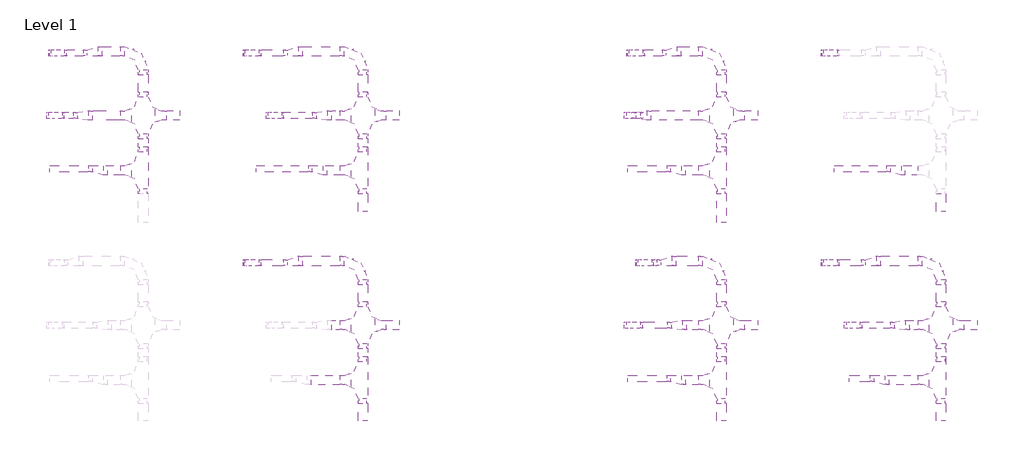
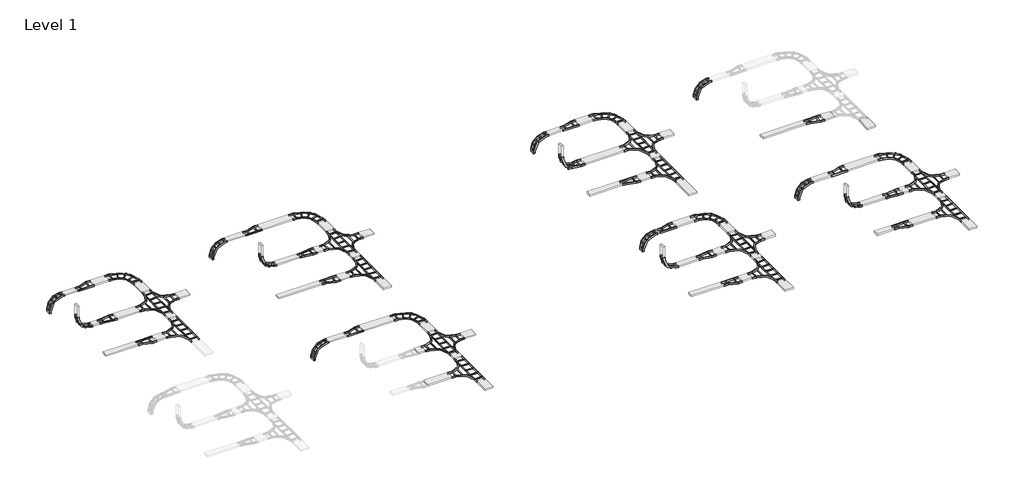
# One storey, part 5 of 9: 71 cable carrier segments, 47 cable carrier fittings.
"""IFC4 building model written with IfcOpenShell, lengths in millimetres."""

from ifc_helpers import new_model, si_unit, frame, origin, place, context, project, spatial, polyline, outline, extrude, transform, mapped, element, save
from components import cable_carrier_fitting_1_5_mm_3523910d, cable_carrier_fitting_1_5_mm_19f47176, cable_carrier_fitting_1_5_mm_3fb46f2a, cable_carrier_fitting_1_5_mm_6c32c4d6, cable_carrier_fitting_1_5_mm_98a35593, cable_carrier_fitting_1_5_mm_dfeaff0d, cable_carrier_fitting_1_5_mm_72e9b842, cable_carrier_fitting_1_5_mm_6b6fba04, cable_carrier_fitting_1_5_mm_c50eb6b4, cable_carrier_fitting_1_5_mm_1f838bc7, cable_carrier_fitting_1_5_mm_861352f9, cable_carrier_fitting_1_5_mm_f55de235, cable_carrier_fitting_1_5_mm_ccf48cd3, cable_carrier_fitting_1_5_mm_2af02ecb, cable_carrier_fitting_1_5_mm_74426db5, cable_carrier_fitting_1_5_mm_0168b917, cable_carrier_fitting_1_5_mm_cc8ef015, cable_carrier_fitting_1_5_mm_7721eeaa, cable_carrier_fitting_1_5_mm_8b0a73e9, cable_carrier_fitting_1_5_mm_c053843e

model = new_model("IFC4")

# Units and contexts
model_context = context("Model", 3, world=origin())
ifc_project = project(units=[si_unit("LENGTHUNIT", "METRE", prefix="MILLI")], contexts=[model_context])

# Site, building, storey
site = spatial("IfcSite", under=ifc_project)
building = spatial("IfcBuilding", under=site)
storey = spatial("IfcBuildingStorey", under=building, Name="Level 1", Elevation=0.0)

# Cable carrier fittings
placement = place(None, origin())
cable_carrier_fitting_1_5_mm_shape = cable_carrier_fitting_1_5_mm_3523910d(model_context)
element("IfcCableCarrierFitting", 1, ObjectType="BAKS_Łuk_drabiny : 1.5 mm", at=placement, inside=storey, context=model_context, shape_type="MappedRepresentation", body=[
    mapped(cable_carrier_fitting_1_5_mm_shape, transform((36575.8987392, 20568.4533524, 2750.0), x_axis=(0.0, 1.0, 0.0), y_axis=(-1.0, 0.0, 0.0), z_axis=(0.0, 0.0, 1.0))),
])
element("IfcCableCarrierFitting", 2, ObjectType="BAKS_Łuk_drabiny : 1.5 mm", at=placement, inside=storey, context=model_context, shape_type="MappedRepresentation", body=[
    mapped(cable_carrier_fitting_1_5_mm_shape, transform((36575.8987392, 14068.4533524, 2750.0), x_axis=(0.0, 1.0, 0.0), y_axis=(-1.0, 0.0, 0.0), z_axis=(0.0, 0.0, 1.0))),
])
element("IfcCableCarrierFitting", 3, ObjectType="BAKS_Łuk_drabiny : 1.5 mm", at=placement, inside=storey, context=model_context, shape_type="MappedRepresentation", body=[
    mapped(cable_carrier_fitting_1_5_mm_shape, transform((43375.8987392, 14068.4533524, 2750.0), x_axis=(0.0, 1.0, 0.0), y_axis=(-1.0, 0.0, 0.0), z_axis=(0.0, 0.0, 1.0))),
])
cable_carrier_fitting_1_5_mm_2_shape = cable_carrier_fitting_1_5_mm_19f47176(model_context)
element("IfcCableCarrierFitting", 4, ObjectType="BAKS_Czwórnik_drabiny : 1.5 mm", at=placement, inside=storey, context=model_context, shape_type="MappedRepresentation", body=[
    mapped(cable_carrier_fitting_1_5_mm_2_shape, transform((36575.8987392, 18581.6749022, 2750.0), x_axis=(0.0, 1.0, 0.0), y_axis=(-1.0, 0.0, 0.0), z_axis=(0.0, 0.0, 1.0))),
])
element("IfcCableCarrierFitting", 5, ObjectType="BAKS_Czwórnik_drabiny : 1.5 mm", at=placement, inside=storey, context=model_context, shape_type="MappedRepresentation", body=[
    mapped(cable_carrier_fitting_1_5_mm_2_shape, transform((36575.8987392, 12081.6749022, 2750.0), x_axis=(0.0, 1.0, 0.0), y_axis=(-1.0, 0.0, 0.0), z_axis=(0.0, 0.0, 1.0))),
])
element("IfcCableCarrierFitting", 6, ObjectType="BAKS_Czwórnik_drabiny : 1.5 mm", at=placement, inside=storey, context=model_context, shape_type="MappedRepresentation", body=[
    mapped(cable_carrier_fitting_1_5_mm_2_shape, transform((43375.8987392, 12081.6749022, 2750.0), x_axis=(0.0, 1.0, 0.0), y_axis=(-1.0, 0.0, 0.0), z_axis=(0.0, 0.0, 1.0))),
])
cable_carrier_fitting_1_5_mm_3_shape = cable_carrier_fitting_1_5_mm_3fb46f2a(model_context)
element("IfcCableCarrierFitting", 7, ObjectType="BAKS_Łuk_drabiny : 1.5 mm", at=placement, inside=storey, context=model_context, shape_type="MappedRepresentation", body=[
    mapped(cable_carrier_fitting_1_5_mm_3_shape, transform((18675.8987392, 20568.4533524, 2750.0), x_axis=(0.0, 1.0, 0.0), y_axis=(-1.0, 0.0, 0.0), z_axis=(0.0, 0.0, 1.0))),
])
element("IfcCableCarrierFitting", 8, ObjectType="BAKS_Łuk_drabiny : 1.5 mm", at=placement, inside=storey, context=model_context, shape_type="MappedRepresentation", body=[
    mapped(cable_carrier_fitting_1_5_mm_3_shape, transform((25475.8987392, 20568.4533524, 2750.0), x_axis=(0.0, 1.0, 0.0), y_axis=(-1.0, 0.0, 0.0), z_axis=(0.0, 0.0, 1.0))),
])
element("IfcCableCarrierFitting", 9, ObjectType="BAKS_Łuk_drabiny : 1.5 mm", at=placement, inside=storey, context=model_context, shape_type="MappedRepresentation", body=[
    mapped(cable_carrier_fitting_1_5_mm_3_shape, transform((25475.8987392, 14068.4533524, 2750.0), x_axis=(0.0, 1.0, 0.0), y_axis=(-1.0, 0.0, 0.0), z_axis=(0.0, 0.0, 1.0))),
])
cable_carrier_fitting_1_5_mm_4_shape = cable_carrier_fitting_1_5_mm_6c32c4d6(model_context)
element("IfcCableCarrierFitting", 10, ObjectType="BAKS_Trójnik_drabiny : 1.5 mm", at=placement, inside=storey, context=model_context, shape_type="MappedRepresentation", body=[
    mapped(cable_carrier_fitting_1_5_mm_4_shape, transform((18675.8987392, 16879.8296821, 2750.0), x_axis=(0.0, -1.0, 0.0), y_axis=(1.0, 0.0, 0.0), z_axis=(0.0, 0.0, 1.0))),
])
element("IfcCableCarrierFitting", 11, ObjectType="BAKS_Trójnik_drabiny : 1.5 mm", at=placement, inside=storey, context=model_context, shape_type="MappedRepresentation", body=[
    mapped(cable_carrier_fitting_1_5_mm_4_shape, transform((25475.8987392, 16879.8296821, 2750.0), x_axis=(0.0, -1.0, 0.0), y_axis=(1.0, 0.0, 0.0), z_axis=(0.0, 0.0, 1.0))),
])
element("IfcCableCarrierFitting", 12, ObjectType="BAKS_Trójnik_drabiny : 1.5 mm", at=placement, inside=storey, context=model_context, shape_type="MappedRepresentation", body=[
    mapped(cable_carrier_fitting_1_5_mm_4_shape, transform((25475.8987392, 10379.8296821, 2750.0), x_axis=(0.0, -1.0, 0.0), y_axis=(1.0, 0.0, 0.0), z_axis=(0.0, 0.0, 1.0))),
])
cable_carrier_fitting_1_5_mm_5_shape = cable_carrier_fitting_1_5_mm_98a35593(model_context)
element("IfcCableCarrierFitting", 13, ObjectType="BAKS_Czwórnik_drabiny : 1.5 mm", at=placement, inside=storey, context=model_context, shape_type="MappedRepresentation", body=[
    mapped(cable_carrier_fitting_1_5_mm_5_shape, transform((18675.8987392, 18581.6749022, 2750.0), x_axis=(0.0, 1.0, 0.0), y_axis=(-1.0, 0.0, 0.0), z_axis=(0.0, 0.0, 1.0))),
])
element("IfcCableCarrierFitting", 14, ObjectType="BAKS_Czwórnik_drabiny : 1.5 mm", at=placement, inside=storey, context=model_context, shape_type="MappedRepresentation", body=[
    mapped(cable_carrier_fitting_1_5_mm_5_shape, transform((25475.8987392, 18581.6749022, 2750.0), x_axis=(0.0, 1.0, 0.0), y_axis=(-1.0, 0.0, 0.0), z_axis=(0.0, 0.0, 1.0))),
])
element("IfcCableCarrierFitting", 15, ObjectType="BAKS_Czwórnik_drabiny : 1.5 mm", at=placement, inside=storey, context=model_context, shape_type="MappedRepresentation", body=[
    mapped(cable_carrier_fitting_1_5_mm_5_shape, transform((25475.8987392, 12081.6749022, 2750.0), x_axis=(0.0, 1.0, 0.0), y_axis=(-1.0, 0.0, 0.0), z_axis=(0.0, 0.0, 1.0))),
])
cable_carrier_fitting_1_5_mm_6_shape = cable_carrier_fitting_1_5_mm_dfeaff0d(model_context)
element("IfcCableCarrierFitting", 16, ObjectType="BAKS_Redukcja_drabiny : 1.5 mm", at=placement, inside=storey, context=model_context, shape_type="MappedRepresentation", body=[
    mapped(cable_carrier_fitting_1_5_mm_6_shape, transform((17104.2228336, 18581.6749022, 2750.0), x_axis=(-1.0, 0.0, 0.0), y_axis=(0.0, -1.0, 0.0), z_axis=(0.0, 0.0, 1.0))),
])
cable_carrier_fitting_1_5_mm_7_shape = cable_carrier_fitting_1_5_mm_72e9b842(model_context)
element("IfcCableCarrierFitting", 17, ObjectType="BAKS_Redukcja_drabiny : 1.5 mm", at=placement, inside=storey, context=model_context, shape_type="MappedRepresentation", body=[
    mapped(cable_carrier_fitting_1_5_mm_7_shape, transform((16809.31285, 20518.4533524, 2750.0), x_axis=(1.0, 0.0, 0.0), y_axis=(0.0, 1.0, 0.0), z_axis=(0.0, 0.0, 1.0))),
])
cable_carrier_fitting_1_5_mm_8_shape = cable_carrier_fitting_1_5_mm_6b6fba04(model_context)
element("IfcCableCarrierFitting", 18, ObjectType="BAKS_Redukcja_drabiny : 1.5 mm", at=placement, inside=storey, context=model_context, shape_type="MappedRepresentation", body=[
    mapped(cable_carrier_fitting_1_5_mm_8_shape, transform((23904.2228336, 18581.6749022, 2750.0), x_axis=(1.0, 0.0, 0.0), y_axis=(0.0, 1.0, 0.0), z_axis=(0.0, 0.0, 1.0))),
])
cable_carrier_fitting_1_5_mm_9_shape = cable_carrier_fitting_1_5_mm_c50eb6b4(model_context)
element("IfcCableCarrierFitting", 19, ObjectType="BAKS_Redukcja_drabiny : 1.5 mm", at=placement, inside=storey, context=model_context, shape_type="MappedRepresentation", body=[
    mapped(cable_carrier_fitting_1_5_mm_9_shape, transform((23609.31285, 20568.4533524, 2750.0), x_axis=(-1.0, 0.0, 0.0), y_axis=(0.0, -1.0, 0.0), z_axis=(0.0, 0.0, 1.0))),
])
element("IfcCableCarrierFitting", 20, ObjectType="BAKS_Redukcja_drabiny : 1.5 mm", at=placement, inside=storey, context=model_context, shape_type="MappedRepresentation", body=[
    mapped(cable_carrier_fitting_1_5_mm_9_shape, transform((23609.31285, 14068.4533524, 2750.0), x_axis=(-1.0, 0.0, 0.0), y_axis=(0.0, -1.0, 0.0), z_axis=(0.0, 0.0, 1.0))),
])
cable_carrier_fitting_1_5_mm_10_shape = cable_carrier_fitting_1_5_mm_1f838bc7(model_context)
element("IfcCableCarrierFitting", 21, ObjectType="BAKS_Redukcja_drabiny : 1.5 mm", at=placement, inside=storey, context=model_context, shape_type="MappedRepresentation", body=[
    mapped(cable_carrier_fitting_1_5_mm_10_shape, transform((17575.8987392, 16879.8296821, 2750.0), x_axis=(-1.0, 0.0, 0.0), y_axis=(0.0, -1.0, 0.0), z_axis=(0.0, 0.0, 1.0))),
])
element("IfcCableCarrierFitting", 22, ObjectType="BAKS_Redukcja_drabiny : 1.5 mm", at=placement, inside=storey, context=model_context, shape_type="MappedRepresentation", body=[
    mapped(cable_carrier_fitting_1_5_mm_10_shape, transform((24375.8987392, 16879.8296821, 2750.0), x_axis=(-1.0, 0.0, 0.0), y_axis=(0.0, -1.0, 0.0), z_axis=(0.0, 0.0, 1.0))),
])
cable_carrier_fitting_1_5_mm_11_shape = cable_carrier_fitting_1_5_mm_861352f9(model_context)
element("IfcCableCarrierFitting", 23, ObjectType="BAKS_Łuk_pionowy_drabiny_zew : 1.5 mm", at=placement, inside=storey, context=model_context, shape_type="MappedRepresentation", body=[
    mapped(cable_carrier_fitting_1_5_mm_11_shape, transform((15777.0936106, 20518.4533524, 2750.0), x_axis=(0.0, 0.0, 1.0), y_axis=(1.0, 0.0, 0.0), z_axis=(0.0, 1.0, 0.0))),
])
element("IfcCableCarrierFitting", 24, ObjectType="BAKS_Łuk_pionowy_drabiny_zew : 1.5 mm", at=placement, inside=storey, context=model_context, shape_type="MappedRepresentation", body=[
    mapped(cable_carrier_fitting_1_5_mm_11_shape, transform((21799.2228336, 20518.4533524, 2750.0), x_axis=(0.0, 0.0, 1.0), y_axis=(1.0, 0.0, 0.0), z_axis=(0.0, 1.0, 0.0))),
])
element("IfcCableCarrierFitting", 25, ObjectType="BAKS_Łuk_pionowy_drabiny_zew : 1.5 mm", at=placement, inside=storey, context=model_context, shape_type="MappedRepresentation", body=[
    mapped(cable_carrier_fitting_1_5_mm_11_shape, transform((21799.2228336, 14018.4533524, 2750.0), x_axis=(0.0, 0.0, 1.0), y_axis=(1.0, 0.0, 0.0), z_axis=(0.0, 1.0, 0.0))),
])
cable_carrier_fitting_1_5_mm_12_shape = cable_carrier_fitting_1_5_mm_f55de235(model_context)
element("IfcCableCarrierFitting", 26, ObjectType="BAKS_Łuk_pionowy_drabiny_wew : 1.5 mm", at=placement, inside=storey, context=model_context, shape_type="MappedRepresentation", body=[
    mapped(cable_carrier_fitting_1_5_mm_12_shape, transform((15704.2228336, 18581.6749022, 2750.0), x_axis=(-1.0, 0.0, 0.0), y_axis=(0.0, 0.0, 1.0), z_axis=(0.0, 1.0, 0.0))),
])
element("IfcCableCarrierFitting", 27, ObjectType="BAKS_Łuk_pionowy_drabiny_wew : 1.5 mm", at=placement, inside=storey, context=model_context, shape_type="MappedRepresentation", body=[
    mapped(cable_carrier_fitting_1_5_mm_12_shape, transform((22504.2228336, 18581.6749022, 2750.0), x_axis=(0.0, 0.0, -1.0), y_axis=(1.0, 0.0, 0.0), z_axis=(0.0, -1.0, 0.0))),
])
cable_carrier_fitting_1_5_mm_13_shape = cable_carrier_fitting_1_5_mm_ccf48cd3(model_context)
element("IfcCableCarrierFitting", 28, ObjectType="BAKS_Redukcja_drabiny : 1.5 mm", at=placement, inside=storey, context=model_context, shape_type="MappedRepresentation", body=[
    mapped(cable_carrier_fitting_1_5_mm_13_shape, transform((35475.8987392, 16879.8296821, 2750.0), x_axis=(-1.0, 0.0, 0.0), y_axis=(0.0, -1.0, 0.0), z_axis=(0.0, 0.0, 1.0))),
])
element("IfcCableCarrierFitting", 29, ObjectType="BAKS_Redukcja_drabiny : 1.5 mm", at=placement, inside=storey, context=model_context, shape_type="MappedRepresentation", body=[
    mapped(cable_carrier_fitting_1_5_mm_13_shape, transform((35475.8987392, 10379.8296821, 2750.0), x_axis=(-1.0, 0.0, 0.0), y_axis=(0.0, -1.0, 0.0), z_axis=(0.0, 0.0, 1.0))),
])
element("IfcCableCarrierFitting", 30, ObjectType="BAKS_Redukcja_drabiny : 1.5 mm", at=placement, inside=storey, context=model_context, shape_type="MappedRepresentation", body=[
    mapped(cable_carrier_fitting_1_5_mm_13_shape, transform((42275.8987392, 16879.8296821, 2750.0), x_axis=(-1.0, 0.0, 0.0), y_axis=(0.0, -1.0, 0.0), z_axis=(0.0, 0.0, 1.0))),
])
element("IfcCableCarrierFitting", 31, ObjectType="BAKS_Redukcja_drabiny : 1.5 mm", at=placement, inside=storey, context=model_context, shape_type="MappedRepresentation", body=[
    mapped(cable_carrier_fitting_1_5_mm_13_shape, transform((41775.8987392, 10379.8296821, 2750.0), x_axis=(-1.0, 0.0, 0.0), y_axis=(0.0, -1.0, 0.0), z_axis=(0.0, 0.0, 1.0))),
])
cable_carrier_fitting_1_5_mm_14_shape = cable_carrier_fitting_1_5_mm_2af02ecb(model_context)
element("IfcCableCarrierFitting", 32, ObjectType="BAKS_Redukcja_drabiny : 1.5 mm", at=placement, inside=storey, context=model_context, shape_type="MappedRepresentation", body=[
    mapped(cable_carrier_fitting_1_5_mm_14_shape, transform((35337.0936106, 20568.4533524, 2750.0), x_axis=(-1.0, 0.0, 0.0), y_axis=(0.0, -1.0, 0.0), z_axis=(0.0, 0.0, 1.0))),
])
cable_carrier_fitting_1_5_mm_15_shape = cable_carrier_fitting_1_5_mm_74426db5(model_context)
element("IfcCableCarrierFitting", 33, ObjectType="BAKS_Redukcja_drabiny : 1.5 mm", at=placement, inside=storey, context=model_context, shape_type="MappedRepresentation", body=[
    mapped(cable_carrier_fitting_1_5_mm_15_shape, transform((34404.2228336, 18581.6749022, 2750.0), x_axis=(-1.0, 0.0, 0.0), y_axis=(0.0, -1.0, 0.0), z_axis=(0.0, 0.0, 1.0))),
])
element("IfcCableCarrierFitting", 34, ObjectType="BAKS_Redukcja_drabiny : 1.5 mm", at=placement, inside=storey, context=model_context, shape_type="MappedRepresentation", body=[
    mapped(cable_carrier_fitting_1_5_mm_15_shape, transform((42404.2228336, 12081.6749022, 2750.0), x_axis=(-1.0, 0.0, 0.0), y_axis=(0.0, -1.0, 0.0), z_axis=(0.0, 0.0, 1.0))),
])
cable_carrier_fitting_1_5_mm_16_shape = cable_carrier_fitting_1_5_mm_0168b917(model_context)
element("IfcCableCarrierFitting", 35, ObjectType="BAKS_Redukcja_drabiny : 1.5 mm", at=placement, inside=storey, context=model_context, shape_type="MappedRepresentation", body=[
    mapped(cable_carrier_fitting_1_5_mm_16_shape, transform((34575.8987392, 14018.4533524, 2750.0), x_axis=(1.0, 0.0, 0.0), y_axis=(0.0, 1.0, 0.0), z_axis=(0.0, 0.0, 1.0))),
])
element("IfcCableCarrierFitting", 36, ObjectType="BAKS_Redukcja_drabiny : 1.5 mm", at=placement, inside=storey, context=model_context, shape_type="MappedRepresentation", body=[
    mapped(cable_carrier_fitting_1_5_mm_16_shape, transform((40909.31285, 14018.4533524, 2750.0), x_axis=(1.0, 0.0, 0.0), y_axis=(0.0, 1.0, 0.0), z_axis=(0.0, 0.0, 1.0))),
])
cable_carrier_fitting_1_5_mm_17_shape = cable_carrier_fitting_1_5_mm_cc8ef015(model_context)
element("IfcCableCarrierFitting", 37, ObjectType="BAKS_Łuk_pionowy_drabiny_zew : 1.5 mm", at=placement, inside=storey, context=model_context, shape_type="MappedRepresentation", body=[
    mapped(cable_carrier_fitting_1_5_mm_17_shape, transform((33677.0936106, 20518.4533524, 2750.0), x_axis=(0.0, 0.0, 1.0), y_axis=(1.0, 0.0, 0.0), z_axis=(0.0, 1.0, 0.0))),
])
element("IfcCableCarrierFitting", 38, ObjectType="BAKS_Łuk_pionowy_drabiny_zew : 1.5 mm", at=placement, inside=storey, context=model_context, shape_type="MappedRepresentation", body=[
    mapped(cable_carrier_fitting_1_5_mm_17_shape, transform((33954.31285, 14018.4533524, 2750.0), x_axis=(0.0, 0.0, 1.0), y_axis=(1.0, 0.0, 0.0), z_axis=(0.0, 1.0, 0.0))),
])
element("IfcCableCarrierFitting", 39, ObjectType="BAKS_Łuk_pionowy_drabiny_zew : 1.5 mm", at=placement, inside=storey, context=model_context, shape_type="MappedRepresentation", body=[
    mapped(cable_carrier_fitting_1_5_mm_17_shape, transform((39699.2228336, 20518.4533524, 2750.0), x_axis=(0.0, 0.0, 1.0), y_axis=(1.0, 0.0, 0.0), z_axis=(0.0, 1.0, 0.0))),
])
element("IfcCableCarrierFitting", 40, ObjectType="BAKS_Łuk_pionowy_drabiny_zew : 1.5 mm", at=placement, inside=storey, context=model_context, shape_type="MappedRepresentation", body=[
    mapped(cable_carrier_fitting_1_5_mm_17_shape, transform((39699.2228336, 14018.4533524, 2750.0), x_axis=(0.0, 0.0, 1.0), y_axis=(1.0, 0.0, 0.0), z_axis=(0.0, 1.0, 0.0))),
])
cable_carrier_fitting_1_5_mm_18_shape = cable_carrier_fitting_1_5_mm_7721eeaa(model_context)
element("IfcCableCarrierFitting", 41, ObjectType="BAKS_Łuk_pionowy_drabiny_wew : 1.5 mm", at=placement, inside=storey, context=model_context, shape_type="MappedRepresentation", body=[
    mapped(cable_carrier_fitting_1_5_mm_18_shape, transform((33604.2228336, 18581.6749022, 2750.0), x_axis=(0.0, 0.0, -1.0), y_axis=(1.0, 0.0, 0.0), z_axis=(0.0, -1.0, 0.0))),
])
element("IfcCableCarrierFitting", 42, ObjectType="BAKS_Łuk_pionowy_drabiny_wew : 1.5 mm", at=placement, inside=storey, context=model_context, shape_type="MappedRepresentation", body=[
    mapped(cable_carrier_fitting_1_5_mm_18_shape, transform((40404.2228336, 12081.6749022, 2750.0), x_axis=(0.0, 0.0, -1.0), y_axis=(1.0, 0.0, 0.0), z_axis=(0.0, -1.0, 0.0))),
])
element("IfcCableCarrierFitting", 43, ObjectType="BAKS_Łuk_pionowy_drabiny_wew : 1.5 mm", at=placement, inside=storey, context=model_context, shape_type="MappedRepresentation", body=[
    mapped(cable_carrier_fitting_1_5_mm_18_shape, transform((33604.2228336, 12081.6749022, 2750.0), x_axis=(0.0, 0.0, -1.0), y_axis=(1.0, 0.0, 0.0), z_axis=(0.0, -1.0, 0.0))),
])
cable_carrier_fitting_1_5_mm_19_shape = cable_carrier_fitting_1_5_mm_8b0a73e9(model_context)
element("IfcCableCarrierFitting", 44, ObjectType="BAKS_Trójnik_drabiny : 1.5 mm", at=placement, inside=storey, context=model_context, shape_type="MappedRepresentation", body=[
    mapped(cable_carrier_fitting_1_5_mm_19_shape, transform((36575.8987392, 16879.8296821, 2750.0), x_axis=(0.0, -1.0, 0.0), y_axis=(1.0, 0.0, 0.0), z_axis=(0.0, 0.0, 1.0))),
])
element("IfcCableCarrierFitting", 45, ObjectType="BAKS_Trójnik_drabiny : 1.5 mm", at=placement, inside=storey, context=model_context, shape_type="MappedRepresentation", body=[
    mapped(cable_carrier_fitting_1_5_mm_19_shape, transform((36575.8987392, 10379.8296821, 2750.0), x_axis=(0.0, -1.0, 0.0), y_axis=(1.0, 0.0, 0.0), z_axis=(0.0, 0.0, 1.0))),
])
element("IfcCableCarrierFitting", 46, ObjectType="BAKS_Trójnik_drabiny : 1.5 mm", at=placement, inside=storey, context=model_context, shape_type="MappedRepresentation", body=[
    mapped(cable_carrier_fitting_1_5_mm_19_shape, transform((43375.8987392, 10379.8296821, 2750.0), x_axis=(0.0, -1.0, 0.0), y_axis=(1.0, 0.0, 0.0), z_axis=(0.0, 0.0, 1.0))),
])
cable_carrier_fitting_1_5_mm_20_shape = cable_carrier_fitting_1_5_mm_c053843e(model_context)
element("IfcCableCarrierFitting", 47, ObjectType="BAKS_Redukcja_drabiny : 1.5 mm", at=placement, inside=storey, context=model_context, shape_type="MappedRepresentation", body=[
    mapped(cable_carrier_fitting_1_5_mm_20_shape, transform((34904.2228336, 12081.6749022, 2750.0), x_axis=(1.0, 0.0, 0.0), y_axis=(0.0, 1.0, 0.0), z_axis=(0.0, 0.0, 1.0))),
])

# Cable carrier segments
element("IfcCableCarrierSegment", 48, ObjectType="BAKS - drabina kablowa H50 (DKD)", at=placement, inside=storey, context=model_context, shape_type="SweptSolid", body=[
    extrude(outline(polyline([(15802.0936106, 20418.4533524), (15752.0936106, 20418.4533524), (15752.0936106, 20618.4533524), (15802.0936106, 20618.4533524), (15802.0936106, 20418.4533524)])), frame((0.0, 0.0, 2200.0), z_axis=(0.0, 0.0, 1.0), x_axis=(1.0, 0.0, 0.0)), (0.0, 0.0, 1.0), 25.0),
])
element("IfcCableCarrierSegment", 49, ObjectType="BAKS - drabina kablowa H50 (DKD)", at=placement, inside=storey, context=model_context, shape_type="SweptSolid", body=[
    extrude(outline(polyline([(17955.8987392, 17029.8296821), (17955.8987392, 16729.8296821), (17575.8987392, 16729.8296821), (17575.8987392, 17029.8296821), (17955.8987392, 17029.8296821)])), frame((0.0, 0.0, 2725.0), z_axis=(0.0, 0.0, 1.0), x_axis=(1.0, 0.0, 0.0)), (0.0, 0.0, 1.0), 50.0),
])
element("IfcCableCarrierSegment", 50, ObjectType="BAKS - drabina kablowa H50 (DKD)", at=placement, inside=storey, context=model_context, shape_type="SweptSolid", body=[
    extrude(outline(polyline([(17955.8987392, 20718.4533524), (17955.8987392, 20418.4533524), (17409.31285, 20418.4533524), (17409.31285, 20718.4533524), (17955.8987392, 20718.4533524)])), frame((0.0, 0.0, 2725.0), z_axis=(0.0, 0.0, 1.0), x_axis=(1.0, 0.0, 0.0)), (0.0, 0.0, 1.0), 50.0),
])
element("IfcCableCarrierSegment", 51, ObjectType="BAKS - drabina kablowa H50 (DKD)", at=placement, inside=storey, context=model_context, shape_type="SweptSolid", body=[
    extrude(outline(polyline([(18825.8987392, 19301.6749022), (18525.8987392, 19301.6749022), (18525.8987392, 19848.4533524), (18825.8987392, 19848.4533524), (18825.8987392, 19301.6749022)])), frame((0.0, 0.0, 2725.0), z_axis=(0.0, 0.0, 1.0), x_axis=(1.0, 0.0, 0.0)), (0.0, 0.0, 1.0), 50.0),
])
element("IfcCableCarrierSegment", 52, ObjectType="BAKS - drabina kablowa H50 (DKD)", at=placement, inside=storey, context=model_context, shape_type="SweptSolid", body=[
    extrude(outline(polyline([(19395.8987392, 18431.6749022), (19395.8987392, 18731.6749022), (19804.2228336, 18731.6749022), (19804.2228336, 18431.6749022), (19395.8987392, 18431.6749022)])), frame((0.0, 0.0, 2725.0), z_axis=(0.0, 0.0, 1.0), x_axis=(1.0, 0.0, 0.0)), (0.0, 0.0, 1.0), 50.0),
])
element("IfcCableCarrierSegment", 53, ObjectType="BAKS - drabina kablowa H50 (DKD)", at=placement, inside=storey, context=model_context, shape_type="SweptSolid", body=[
    extrude(outline(polyline([(18825.8987392, 17599.8296821), (18525.8987392, 17599.8296821), (18525.8987392, 17861.6749022), (18825.8987392, 17861.6749022), (18825.8987392, 17599.8296821)])), frame((0.0, 0.0, 2725.0), z_axis=(0.0, 0.0, 1.0), x_axis=(1.0, 0.0, 0.0)), (0.0, 0.0, 1.0), 50.0),
])
element("IfcCableCarrierSegment", 54, ObjectType="BAKS - drabina kablowa H50 (DKD)", at=placement, inside=storey, context=model_context, shape_type="SweptSolid", body=[
    extrude(outline(polyline([(17955.8987392, 18731.6749022), (17955.8987392, 18431.6749022), (17104.2228336, 18431.6749022), (17104.2228336, 18731.6749022), (17955.8987392, 18731.6749022)])), frame((0.0, 0.0, 2725.0), z_axis=(0.0, 0.0, 1.0), x_axis=(1.0, 0.0, 0.0)), (0.0, 0.0, 1.0), 50.0),
])
element("IfcCableCarrierSegment", 55, ObjectType="BAKS - drabina kablowa H50 (DKD)", at=placement, inside=storey, context=model_context, shape_type="SweptSolid", body=[
    extrude(outline(polyline([(16504.2228336, 18681.6749022), (16504.2228336, 18481.6749022), (16229.2228336, 18481.6749022), (16229.2228336, 18681.6749022), (16504.2228336, 18681.6749022)])), frame((0.0, 0.0, 2725.0), z_axis=(0.0, 0.0, 1.0), x_axis=(1.0, 0.0, 0.0)), (0.0, 0.0, 1.0), 50.0),
])
element("IfcCableCarrierSegment", 56, ObjectType="BAKS - drabina kablowa H50 (DKD)", at=placement, inside=storey, context=model_context, shape_type="SweptSolid", body=[
    extrude(outline(polyline([(16302.0936106, 20418.4533524), (16302.0936106, 20618.4533524), (16809.31285, 20618.4533524), (16809.31285, 20418.4533524), (16302.0936106, 20418.4533524)])), frame((0.0, 0.0, 2725.0), z_axis=(0.0, 0.0, 1.0), x_axis=(1.0, 0.0, 0.0)), (0.0, 0.0, 1.0), 50.0),
])
element("IfcCableCarrierSegment", 57, ObjectType="BAKS - drabina kablowa H50 (DKD)", at=placement, inside=storey, context=model_context, shape_type="SweptSolid", body=[
    extrude(outline(polyline([(15679.2228336, 18681.6749022), (15729.2228336, 18681.6749022), (15729.2228336, 18481.6749022), (15679.2228336, 18481.6749022), (15679.2228336, 18681.6749022)])), frame((0.0, 0.0, 3275.0), z_axis=(0.0, 0.0, 1.0), x_axis=(1.0, 0.0, 0.0)), (0.0, 0.0, 1.0), 425.0),
])
element("IfcCableCarrierSegment", 58, ObjectType="BAKS - drabina kablowa H50 (DKP)", at=placement, inside=storey, context=model_context, shape_type="SweptSolid", body=[
    extrude(outline(polyline([(25625.8987392, 17599.8296821), (25325.8987392, 17599.8296821), (25325.8987392, 17861.6749022), (25625.8987392, 17861.6749022), (25625.8987392, 17599.8296821)])), frame((0.0, 0.0, 2725.0), z_axis=(0.0, 0.0, 1.0), x_axis=(1.0, 0.0, 0.0)), (0.0, 0.0, 1.0), 50.0),
])
element("IfcCableCarrierSegment", 59, ObjectType="BAKS - drabina kablowa H50 (DKP)", at=placement, inside=storey, context=model_context, shape_type="SweptSolid", body=[
    extrude(outline(polyline([(21824.2228336, 20418.4533524), (21774.2228336, 20418.4533524), (21774.2228336, 20618.4533524), (21824.2228336, 20618.4533524), (21824.2228336, 20418.4533524)])), frame((0.0, 0.0, 2200.0), z_axis=(0.0, 0.0, 1.0), x_axis=(1.0, 0.0, 0.0)), (0.0, 0.0, 1.0), 25.0),
])
element("IfcCableCarrierSegment", 60, ObjectType="BAKS - drabina kablowa H50 (DKP)", at=placement, inside=storey, context=model_context, shape_type="SweptSolid", body=[
    extrude(outline(polyline([(25625.8987392, 15608.4533524), (25325.8987392, 15608.4533524), (25325.8987392, 16159.8296821), (25625.8987392, 16159.8296821), (25625.8987392, 15608.4533524)])), frame((0.0, 0.0, 2725.0), z_axis=(0.0, 0.0, 1.0), x_axis=(1.0, 0.0, 0.0)), (0.0, 0.0, 1.0), 50.0),
])
element("IfcCableCarrierSegment", 61, ObjectType="BAKS - drabina kablowa H50 (DKP)", at=placement, inside=storey, context=model_context, shape_type="SweptSolid", body=[
    extrude(outline(polyline([(26604.2228336, 18731.6749022), (26604.2228336, 18431.6749022), (26195.8987392, 18431.6749022), (26195.8987392, 18731.6749022), (26604.2228336, 18731.6749022)])), frame((0.0, 0.0, 2725.0), z_axis=(0.0, 0.0, 1.0), x_axis=(1.0, 0.0, 0.0)), (0.0, 0.0, 1.0), 50.0),
])
element("IfcCableCarrierSegment", 62, ObjectType="BAKS - drabina kablowa H50 (DKP)", at=placement, inside=storey, context=model_context, shape_type="SweptSolid", body=[
    extrude(outline(polyline([(22479.2228336, 18481.6749022), (22479.2228336, 18681.6749022), (22529.2228336, 18681.6749022), (22529.2228336, 18481.6749022), (22479.2228336, 18481.6749022)])), frame((0.0, 0.0, 3275.0), z_axis=(0.0, 0.0, 1.0), x_axis=(1.0, 0.0, 0.0)), (0.0, 0.0, 1.0), 425.0),
])
element("IfcCableCarrierSegment", 63, ObjectType="BAKS - drabina kablowa H50 (DKP)", at=placement, inside=storey, context=model_context, shape_type="SweptSolid", body=[
    extrude(outline(polyline([(23029.2228336, 18481.6749022), (23029.2228336, 18681.6749022), (23904.2228336, 18681.6749022), (23904.2228336, 18481.6749022), (23029.2228336, 18481.6749022)])), frame((0.0, 0.0, 2725.0), z_axis=(0.0, 0.0, 1.0), x_axis=(1.0, 0.0, 0.0)), (0.0, 0.0, 1.0), 50.0),
])
element("IfcCableCarrierSegment", 64, ObjectType="BAKS - drabina kablowa H50 (DKP)", at=placement, inside=storey, context=model_context, shape_type="SweptSolid", body=[
    extrude(outline(polyline([(24375.8987392, 16729.8296821), (24375.8987392, 17029.8296821), (24755.8987392, 17029.8296821), (24755.8987392, 16729.8296821), (24375.8987392, 16729.8296821)])), frame((0.0, 0.0, 2725.0), z_axis=(0.0, 0.0, 1.0), x_axis=(1.0, 0.0, 0.0)), (0.0, 0.0, 1.0), 50.0),
])
element("IfcCableCarrierSegment", 65, ObjectType="BAKS - drabina kablowa H50 (DKP)", at=placement, inside=storey, context=model_context, shape_type="SweptSolid", body=[
    extrude(outline(polyline([(24504.2228336, 18431.6749022), (24504.2228336, 18731.6749022), (24755.8987392, 18731.6749022), (24755.8987392, 18431.6749022), (24504.2228336, 18431.6749022)])), frame((0.0, 0.0, 2725.0), z_axis=(0.0, 0.0, 1.0), x_axis=(1.0, 0.0, 0.0)), (0.0, 0.0, 1.0), 50.0),
])
element("IfcCableCarrierSegment", 66, ObjectType="BAKS - drabina kablowa H50 (DKP)", at=placement, inside=storey, context=model_context, shape_type="SweptSolid", body=[
    extrude(outline(polyline([(25625.8987392, 19301.6749022), (25325.8987392, 19301.6749022), (25325.8987392, 19848.4533524), (25625.8987392, 19848.4533524), (25625.8987392, 19301.6749022)])), frame((0.0, 0.0, 2725.0), z_axis=(0.0, 0.0, 1.0), x_axis=(1.0, 0.0, 0.0)), (0.0, 0.0, 1.0), 50.0),
])
element("IfcCableCarrierSegment", 67, ObjectType="BAKS - drabina kablowa H50 (DKP)", at=placement, inside=storey, context=model_context, shape_type="SweptSolid", body=[
    extrude(outline(polyline([(24755.8987392, 20718.4533524), (24755.8987392, 20418.4533524), (23609.31285, 20418.4533524), (23609.31285, 20718.4533524), (24755.8987392, 20718.4533524)])), frame((0.0, 0.0, 2725.0), z_axis=(0.0, 0.0, 1.0), x_axis=(1.0, 0.0, 0.0)), (0.0, 0.0, 1.0), 50.0),
])
element("IfcCableCarrierSegment", 68, ObjectType="BAKS - drabina kablowa H50 (DKP)", at=placement, inside=storey, context=model_context, shape_type="SweptSolid", body=[
    extrude(outline(polyline([(23009.31285, 20618.4533524), (23009.31285, 20418.4533524), (22324.2228336, 20418.4533524), (22324.2228336, 20618.4533524), (23009.31285, 20618.4533524)])), frame((0.0, 0.0, 2725.0), z_axis=(0.0, 0.0, 1.0), x_axis=(1.0, 0.0, 0.0)), (0.0, 0.0, 1.0), 50.0),
])
element("IfcCableCarrierSegment", 69, ObjectType="BAKS - drabina kablowa H50 (DUP)", at=placement, inside=storey, context=model_context, shape_type="SweptSolid", body=[
    extrude(outline(polyline([(25625.8987392, 11099.8296821), (25325.8987392, 11099.8296821), (25325.8987392, 11361.6749022), (25625.8987392, 11361.6749022), (25625.8987392, 11099.8296821)])), frame((0.0, 0.0, 2725.0), z_axis=(0.0, 0.0, 1.0), x_axis=(1.0, 0.0, 0.0)), (0.0, 0.0, 1.0), 50.0),
])
element("IfcCableCarrierSegment", 70, ObjectType="BAKS - drabina kablowa H50 (DUP)", at=placement, inside=storey, context=model_context, shape_type="SweptSolid", body=[
    extrude(outline(polyline([(21824.2228336, 13918.4533524), (21774.2228336, 13918.4533524), (21774.2228336, 14118.4533524), (21824.2228336, 14118.4533524), (21824.2228336, 13918.4533524)])), frame((0.0, 0.0, 2200.0), z_axis=(0.0, 0.0, 1.0), x_axis=(1.0, 0.0, 0.0)), (0.0, 0.0, 1.0), 25.0),
])
element("IfcCableCarrierSegment", 71, ObjectType="BAKS - drabina kablowa H50 (DUP)", at=placement, inside=storey, context=model_context, shape_type="SweptSolid", body=[
    extrude(outline(polyline([(23009.31285, 14118.4533524), (23009.31285, 13918.4533524), (22324.2228336, 13918.4533524), (22324.2228336, 14118.4533524), (23009.31285, 14118.4533524)])), frame((0.0, 0.0, 2725.0), z_axis=(0.0, 0.0, 1.0), x_axis=(1.0, 0.0, 0.0)), (0.0, 0.0, 1.0), 50.0),
])
element("IfcCableCarrierSegment", 72, ObjectType="BAKS - drabina kablowa H50 (DUP)", at=placement, inside=storey, context=model_context, shape_type="SweptSolid", body=[
    extrude(outline(polyline([(25625.8987392, 9108.4533524), (25325.8987392, 9108.4533524), (25325.8987392, 9659.8296821), (25625.8987392, 9659.8296821), (25625.8987392, 9108.4533524)])), frame((0.0, 0.0, 2725.0), z_axis=(0.0, 0.0, 1.0), x_axis=(1.0, 0.0, 0.0)), (0.0, 0.0, 1.0), 50.0),
])
element("IfcCableCarrierSegment", 73, ObjectType="BAKS - drabina kablowa H50 (DUP)", at=placement, inside=storey, context=model_context, shape_type="SweptSolid", body=[
    extrude(outline(polyline([(26604.2228336, 12231.6749022), (26604.2228336, 11931.6749022), (26195.8987392, 11931.6749022), (26195.8987392, 12231.6749022), (26604.2228336, 12231.6749022)])), frame((0.0, 0.0, 2725.0), z_axis=(0.0, 0.0, 1.0), x_axis=(1.0, 0.0, 0.0)), (0.0, 0.0, 1.0), 50.0),
])
element("IfcCableCarrierSegment", 74, ObjectType="BAKS - drabina kablowa H50 (DUP)", at=placement, inside=storey, context=model_context, shape_type="SweptSolid", body=[
    extrude(outline(polyline([(24755.8987392, 10529.8296821), (24755.8987392, 10229.8296821), (23875.8987392, 10229.8296821), (23875.8987392, 10529.8296821), (24755.8987392, 10529.8296821)])), frame((0.0, 0.0, 2725.0), z_axis=(0.0, 0.0, 1.0), x_axis=(1.0, 0.0, 0.0)), (0.0, 0.0, 1.0), 50.0),
])
element("IfcCableCarrierSegment", 75, ObjectType="BAKS - drabina kablowa H50 (DUP)", at=placement, inside=storey, context=model_context, shape_type="SweptSolid", body=[
    extrude(outline(polyline([(24504.2228336, 11931.6749022), (24504.2228336, 12231.6749022), (24755.8987392, 12231.6749022), (24755.8987392, 11931.6749022), (24504.2228336, 11931.6749022)])), frame((0.0, 0.0, 2725.0), z_axis=(0.0, 0.0, 1.0), x_axis=(1.0, 0.0, 0.0)), (0.0, 0.0, 1.0), 50.0),
])
element("IfcCableCarrierSegment", 76, ObjectType="BAKS - drabina kablowa H50 (DUP)", at=placement, inside=storey, context=model_context, shape_type="SweptSolid", body=[
    extrude(outline(polyline([(25625.8987392, 12801.6749022), (25325.8987392, 12801.6749022), (25325.8987392, 13348.4533524), (25625.8987392, 13348.4533524), (25625.8987392, 12801.6749022)])), frame((0.0, 0.0, 2725.0), z_axis=(0.0, 0.0, 1.0), x_axis=(1.0, 0.0, 0.0)), (0.0, 0.0, 1.0), 50.0),
])
element("IfcCableCarrierSegment", 77, ObjectType="BAKS - drabina kablowa H50 (DUP)", at=placement, inside=storey, context=model_context, shape_type="SweptSolid", body=[
    extrude(outline(polyline([(24755.8987392, 14218.4533524), (24755.8987392, 13918.4533524), (23609.31285, 13918.4533524), (23609.31285, 14218.4533524), (24755.8987392, 14218.4533524)])), frame((0.0, 0.0, 2725.0), z_axis=(0.0, 0.0, 1.0), x_axis=(1.0, 0.0, 0.0)), (0.0, 0.0, 1.0), 50.0),
])
element("IfcCableCarrierSegment", 78, ObjectType="BAKS - drabina kablowa H50 (DKD)", at=placement, inside=storey, context=model_context, shape_type="SweptSolid", body=[
    extrude(outline(polyline([(16975.8987392, 17029.8296821), (16975.8987392, 16829.8296821), (15775.8987392, 16829.8296821), (15775.8987392, 17029.8296821), (16975.8987392, 17029.8296821)])), frame((0.0, 0.0, 2725.0), z_axis=(0.0, 0.0, 1.0), x_axis=(1.0, 0.0, 0.0)), (0.0, 0.0, 1.0), 50.0),
])
element("IfcCableCarrierSegment", 79, ObjectType="BAKS - drabina kablowa H50 (DKP)", at=placement, inside=storey, context=model_context, shape_type="SweptSolid", body=[
    extrude(outline(polyline([(23775.8987392, 17029.8296821), (23775.8987392, 16829.8296821), (22175.8987392, 16829.8296821), (22175.8987392, 17029.8296821), (23775.8987392, 17029.8296821)])), frame((0.0, 0.0, 2725.0), z_axis=(0.0, 0.0, 1.0), x_axis=(1.0, 0.0, 0.0)), (0.0, 0.0, 1.0), 50.0),
])
element("IfcCableCarrierSegment", 80, ObjectType="BAKS - drabina kablowa H60 (DKD)", at=placement, inside=storey, context=model_context, shape_type="SweptSolid", body=[
    extrude(outline(polyline([(36725.8987392, 17599.8296821), (36425.8987392, 17599.8296821), (36425.8987392, 17861.6749022), (36725.8987392, 17861.6749022), (36725.8987392, 17599.8296821)])), frame((0.0, 0.0, 2720.0), z_axis=(0.0, 0.0, 1.0), x_axis=(1.0, 0.0, 0.0)), (0.0, 0.0, 1.0), 60.0),
])
element("IfcCableCarrierSegment", 81, ObjectType="BAKS - drabina kablowa H60 (DKD)", at=placement, inside=storey, context=model_context, shape_type="SweptSolid", body=[
    extrude(outline(polyline([(30.0, 4.4030651), (-30.0, 4.4030651), (-30.0, 204.4030651), (30.0, 204.4030651), (30.0, 4.4030651)])), frame((33677.0936106, 20414.0502873, 2200.0), z_axis=(0.0, -2.252406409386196e-11, 1.0), x_axis=(1.0, 0.0, 0.0)), (0.0, 0.0, 1.0), 20.0),
])
element("IfcCableCarrierSegment", 82, ObjectType="BAKS - drabina kablowa H60 (DKD)", at=placement, inside=storey, context=model_context, shape_type="SweptSolid", body=[
    extrude(outline(polyline([(34207.0936106, 20418.4533524), (34207.0936106, 20618.4533524), (34737.0936106, 20618.4533524), (34737.0936106, 20418.4533524), (34207.0936106, 20418.4533524)])), frame((0.0, 0.0, 2720.0), z_axis=(0.0, 0.0, 1.0), x_axis=(1.0, 0.0, 0.0)), (0.0, 0.0, 1.0), 60.0),
])
element("IfcCableCarrierSegment", 83, ObjectType="BAKS - drabina kablowa H60 (DKD)", at=placement, inside=storey, context=model_context, shape_type="SweptSolid", body=[
    extrude(outline(polyline([(36725.8987392, 15259.8296821), (36425.8987392, 15259.8296821), (36425.8987392, 16159.8296821), (36725.8987392, 16159.8296821), (36725.8987392, 15259.8296821)])), frame((0.0, 0.0, 2720.0), z_axis=(0.0, 0.0, 1.0), x_axis=(1.0, 0.0, 0.0)), (0.0, 0.0, 1.0), 60.0),
])
element("IfcCableCarrierSegment", 84, ObjectType="BAKS - drabina kablowa H60 (DKD)", at=placement, inside=storey, context=model_context, shape_type="SweptSolid", body=[
    extrude(outline(polyline([(37704.2228336, 18731.6749022), (37704.2228336, 18431.6749022), (37295.8987392, 18431.6749022), (37295.8987392, 18731.6749022), (37704.2228336, 18731.6749022)])), frame((0.0, 0.0, 2720.0), z_axis=(0.0, 0.0, 1.0), x_axis=(1.0, 0.0, 0.0)), (0.0, 0.0, 1.0), 60.0),
])
element("IfcCableCarrierSegment", 85, ObjectType="BAKS - drabina kablowa H60 (DKD)", at=placement, inside=storey, context=model_context, shape_type="SweptSolid", body=[
    extrude(outline(polyline([(33574.2228336, 18481.6749022), (33574.2228336, 18681.6749022), (33634.2228336, 18681.6749022), (33634.2228336, 18481.6749022), (33574.2228336, 18481.6749022)])), frame((0.0, 0.0, 3280.0), z_axis=(0.0, 0.0, 1.0), x_axis=(1.0, 0.0, 0.0)), (0.0, 0.0, 1.0), 420.0),
])
element("IfcCableCarrierSegment", 86, ObjectType="BAKS - drabina kablowa H60 (DKD)", at=placement, inside=storey, context=model_context, shape_type="SweptSolid", body=[
    extrude(outline(polyline([(34875.8987392, 17029.8296821), (34875.8987392, 16829.8296821), (33675.8987392, 16829.8296821), (33675.8987392, 17029.8296821), (34875.8987392, 17029.8296821)])), frame((0.0, 0.0, 2720.0), z_axis=(0.0, 0.0, 1.0), x_axis=(1.0, 0.0, 0.0)), (0.0, 0.0, 1.0), 60.0),
])
element("IfcCableCarrierSegment", 87, ObjectType="BAKS - drabina kablowa H60 (DKD)", at=placement, inside=storey, context=model_context, shape_type="SweptSolid", body=[
    extrude(outline(polyline([(35855.8987392, 17029.8296821), (35855.8987392, 16729.8296821), (35475.8987392, 16729.8296821), (35475.8987392, 17029.8296821), (35855.8987392, 17029.8296821)])), frame((0.0, 0.0, 2720.0), z_axis=(0.0, 0.0, 1.0), x_axis=(1.0, 0.0, 0.0)), (0.0, 0.0, 1.0), 60.0),
])
element("IfcCableCarrierSegment", 88, ObjectType="BAKS - drabina kablowa H60 (DKD)", at=placement, inside=storey, context=model_context, shape_type="SweptSolid", body=[
    extrude(outline(polyline([(36425.8987392, 19848.4533524), (36725.8987392, 19848.4533524), (36725.8987392, 19301.6749022), (36425.8987392, 19301.6749022), (36425.8987392, 19848.4533524)])), frame((0.0, 0.0, 2720.0), z_axis=(0.0, 0.0, 1.0), x_axis=(1.0, 0.0, 0.0)), (0.0, 0.0, 1.0), 60.0),
])
element("IfcCableCarrierSegment", 89, ObjectType="BAKS - drabina kablowa H60 (DKD)", at=placement, inside=storey, context=model_context, shape_type="SweptSolid", body=[
    extrude(outline(polyline([(35855.8987392, 18731.6749022), (35855.8987392, 18431.6749022), (34404.2228336, 18431.6749022), (34404.2228336, 18731.6749022), (35855.8987392, 18731.6749022)])), frame((0.0, 0.0, 2720.0), z_axis=(0.0, 0.0, 1.0), x_axis=(1.0, 0.0, 0.0)), (0.0, 0.0, 1.0), 60.0),
])
element("IfcCableCarrierSegment", 90, ObjectType="BAKS - drabina kablowa H60 (DKD)", at=placement, inside=storey, context=model_context, shape_type="SweptSolid", body=[
    extrude(outline(polyline([(35855.8987392, 20718.4533524), (35855.8987392, 20418.4533524), (35337.0936106, 20418.4533524), (35337.0936106, 20718.4533524), (35855.8987392, 20718.4533524)])), frame((0.0, 0.0, 2720.0), z_axis=(0.0, 0.0, 1.0), x_axis=(1.0, 0.0, 0.0)), (0.0, 0.0, 1.0), 60.0),
])
element("IfcCableCarrierSegment", 91, ObjectType="BAKS - drabina kablowa H60 (DUD)", at=placement, inside=storey, context=model_context, shape_type="SweptSolid", body=[
    extrude(outline(polyline([(36725.8987392, 11099.8296821), (36425.8987392, 11099.8296821), (36425.8987392, 11361.6749022), (36725.8987392, 11361.6749022), (36725.8987392, 11099.8296821)])), frame((0.0, 0.0, 2720.0), z_axis=(0.0, 0.0, 1.0), x_axis=(1.0, 0.0, 0.0)), (0.0, 0.0, 1.0), 60.0),
])
element("IfcCableCarrierSegment", 92, ObjectType="BAKS - drabina kablowa H60 (DUD)", at=placement, inside=storey, context=model_context, shape_type="SweptSolid", body=[
    extrude(outline(polyline([(33984.31285, 13918.4533524), (33924.31285, 13918.4533524), (33924.31285, 14118.4533524), (33984.31285, 14118.4533524), (33984.31285, 13918.4533524)])), frame((0.0, 0.0, 2200.0), z_axis=(0.0, 0.0, 1.0), x_axis=(1.0, 0.0, 0.0)), (0.0, 0.0, 1.0), 20.0),
])
element("IfcCableCarrierSegment", 93, ObjectType="BAKS - drabina kablowa H60 (DUD)", at=placement, inside=storey, context=model_context, shape_type="SweptSolid", body=[
    extrude(outline(polyline([(34575.8987392, 14118.4533524), (34575.8987392, 13918.4533524), (34484.31285, 13918.4533524), (34484.31285, 14118.4533524), (34575.8987392, 14118.4533524)])), frame((0.0, 0.0, 2720.0), z_axis=(0.0, 0.0, 1.0), x_axis=(1.0, 0.0, 0.0)), (0.0, 0.0, 1.0), 60.0),
])
element("IfcCableCarrierSegment", 94, ObjectType="BAKS - drabina kablowa H60 (DUD)", at=placement, inside=storey, context=model_context, shape_type="SweptSolid", body=[
    extrude(outline(polyline([(36725.8987392, 9108.4533524), (36425.8987392, 9108.4533524), (36425.8987392, 9659.8296821), (36725.8987392, 9659.8296821), (36725.8987392, 9108.4533524)])), frame((0.0, 0.0, 2720.0), z_axis=(0.0, 0.0, 1.0), x_axis=(1.0, 0.0, 0.0)), (0.0, 0.0, 1.0), 60.0),
])
element("IfcCableCarrierSegment", 95, ObjectType="BAKS - drabina kablowa H60 (DUD)", at=placement, inside=storey, context=model_context, shape_type="SweptSolid", body=[
    extrude(outline(polyline([(37704.2228336, 12231.6749022), (37704.2228336, 11931.6749022), (37295.8987392, 11931.6749022), (37295.8987392, 12231.6749022), (37704.2228336, 12231.6749022)])), frame((0.0, 0.0, 2720.0), z_axis=(0.0, 0.0, 1.0), x_axis=(1.0, 0.0, 0.0)), (0.0, 0.0, 1.0), 60.0),
])
element("IfcCableCarrierSegment", 96, ObjectType="BAKS - drabina kablowa H60 (DUD)", at=placement, inside=storey, context=model_context, shape_type="SweptSolid", body=[
    extrude(outline(polyline([(33574.2228336, 11981.6749022), (33574.2228336, 12181.6749022), (33634.2228336, 12181.6749022), (33634.2228336, 11981.6749022), (33574.2228336, 11981.6749022)])), frame((0.0, 0.0, 3280.0), z_axis=(0.0, 0.0, 1.0), x_axis=(1.0, 0.0, 0.0)), (0.0, 0.0, 1.0), 420.0),
])
element("IfcCableCarrierSegment", 97, ObjectType="BAKS - drabina kablowa H60 (DUD)", at=placement, inside=storey, context=model_context, shape_type="SweptSolid", body=[
    extrude(outline(polyline([(34134.2228336, 11981.6749022), (34134.2228336, 12181.6749022), (34904.2228336, 12181.6749022), (34904.2228336, 11981.6749022), (34134.2228336, 11981.6749022)])), frame((0.0, 0.0, 2720.0), z_axis=(0.0, 0.0, 1.0), x_axis=(1.0, 0.0, 0.0)), (0.0, 0.0, 1.0), 60.0),
])
element("IfcCableCarrierSegment", 98, ObjectType="BAKS - drabina kablowa H60 (DUD)", at=placement, inside=storey, context=model_context, shape_type="SweptSolid", body=[
    extrude(outline(polyline([(34875.8987392, 10529.8296821), (34875.8987392, 10329.8296821), (33675.8987392, 10329.8296821), (33675.8987392, 10529.8296821), (34875.8987392, 10529.8296821)])), frame((0.0, 0.0, 2720.0), z_axis=(0.0, 0.0, 1.0), x_axis=(1.0, 0.0, 0.0)), (0.0, 0.0, 1.0), 60.0),
])
element("IfcCableCarrierSegment", 99, ObjectType="BAKS - drabina kablowa H60 (DUD)", at=placement, inside=storey, context=model_context, shape_type="SweptSolid", body=[
    extrude(outline(polyline([(35855.8987392, 10529.8296821), (35855.8987392, 10229.8296821), (35475.8987392, 10229.8296821), (35475.8987392, 10529.8296821), (35855.8987392, 10529.8296821)])), frame((0.0, 0.0, 2720.0), z_axis=(0.0, 0.0, 1.0), x_axis=(1.0, 0.0, 0.0)), (0.0, 0.0, 1.0), 60.0),
])
element("IfcCableCarrierSegment", 100, ObjectType="BAKS - drabina kablowa H60 (DUD)", at=placement, inside=storey, context=model_context, shape_type="SweptSolid", body=[
    extrude(outline(polyline([(36725.8987392, 12801.6749022), (36425.8987392, 12801.6749022), (36425.8987392, 13348.4533524), (36725.8987392, 13348.4533524), (36725.8987392, 12801.6749022)])), frame((0.0, 0.0, 2720.0), z_axis=(0.0, 0.0, 1.0), x_axis=(1.0, 0.0, 0.0)), (0.0, 0.0, 1.0), 60.0),
])
element("IfcCableCarrierSegment", 101, ObjectType="BAKS - drabina kablowa H60 (DUD)", at=placement, inside=storey, context=model_context, shape_type="SweptSolid", body=[
    extrude(outline(polyline([(35855.8987392, 14218.4533524), (35855.8987392, 13918.4533524), (35175.8987392, 13918.4533524), (35175.8987392, 14218.4533524), (35855.8987392, 14218.4533524)])), frame((0.0, 0.0, 2720.0), z_axis=(0.0, 0.0, 1.0), x_axis=(1.0, 0.0, 0.0)), (0.0, 0.0, 1.0), 60.0),
])
element("IfcCableCarrierSegment", 102, ObjectType="BAKS - drabina kablowa H60 (DKP)", at=placement, inside=storey, context=model_context, shape_type="SweptSolid", body=[
    extrude(outline(polyline([(39729.2228336, 20418.4533524), (39669.2228336, 20418.4533524), (39669.2228336, 20618.4533524), (39729.2228336, 20618.4533524), (39729.2228336, 20418.4533524)])), frame((0.0, 0.0, 2200.0), z_axis=(0.0, 0.0, 1.0), x_axis=(1.0, 0.0, 0.0)), (0.0, 0.0, 1.0), 20.0),
])
element("IfcCableCarrierSegment", 103, ObjectType="BAKS - drabina kablowa H60 (DKP)", at=placement, inside=storey, context=model_context, shape_type="SweptSolid", body=[
    extrude(outline(polyline([(43525.8987392, 15608.4533524), (43225.8987392, 15608.4533524), (43225.8987392, 16159.8296821), (43525.8987392, 16159.8296821), (43525.8987392, 15608.4533524)])), frame((0.0, 0.0, 2720.0), z_axis=(0.0, 0.0, 1.0), x_axis=(1.0, 0.0, 0.0)), (0.0, 0.0, 1.0), 60.0),
])
element("IfcCableCarrierSegment", 104, ObjectType="BAKS - drabina kablowa H60 (DKP)", at=placement, inside=storey, context=model_context, shape_type="SweptSolid", body=[
    extrude(outline(polyline([(41675.8987392, 17029.8296821), (41675.8987392, 16829.8296821), (40075.8987392, 16829.8296821), (40075.8987392, 17029.8296821), (41675.8987392, 17029.8296821)])), frame((0.0, 0.0, 2720.0), z_axis=(0.0, 0.0, 1.0), x_axis=(1.0, 0.0, 0.0)), (0.0, 0.0, 1.0), 60.0),
])
element("IfcCableCarrierSegment", 105, ObjectType="BAKS - drabina kablowa H60 (DKP)", at=placement, inside=storey, context=model_context, shape_type="SweptSolid", body=[
    extrude(outline(polyline([(42655.8987392, 17029.8296821), (42655.8987392, 16729.8296821), (42275.8987392, 16729.8296821), (42275.8987392, 17029.8296821), (42655.8987392, 17029.8296821)])), frame((0.0, 0.0, 2720.0), z_axis=(0.0, 0.0, 1.0), x_axis=(1.0, 0.0, 0.0)), (0.0, 0.0, 1.0), 60.0),
])
element("IfcCableCarrierSegment", 106, ObjectType="BAKS - drabina kablowa H60 (DUP)", at=placement, inside=storey, context=model_context, shape_type="SweptSolid", body=[
    extrude(outline(polyline([(43525.8987392, 11099.8296821), (43225.8987392, 11099.8296821), (43225.8987392, 11361.6749022), (43525.8987392, 11361.6749022), (43525.8987392, 11099.8296821)])), frame((0.0, 0.0, 2720.0), z_axis=(0.0, 0.0, 1.0), x_axis=(1.0, 0.0, 0.0)), (0.0, 0.0, 1.0), 60.0),
])
element("IfcCableCarrierSegment", 107, ObjectType="BAKS - drabina kablowa H60 (DUP)", at=placement, inside=storey, context=model_context, shape_type="SweptSolid", body=[
    extrude(outline(polyline([(39729.2228336, 13918.4533524), (39669.2228336, 13918.4533524), (39669.2228336, 14118.4533524), (39729.2228336, 14118.4533524), (39729.2228336, 13918.4533524)])), frame((0.0, 0.0, 2200.0), z_axis=(0.0, 0.0, 1.0), x_axis=(1.0, 0.0, 0.0)), (0.0, 0.0, 1.0), 20.0),
])
element("IfcCableCarrierSegment", 108, ObjectType="BAKS - drabina kablowa H60 (DUP)", at=placement, inside=storey, context=model_context, shape_type="SweptSolid", body=[
    extrude(outline(polyline([(40229.2228336, 13918.4533524), (40229.2228336, 14118.4533524), (40909.31285, 14118.4533524), (40909.31285, 13918.4533524), (40229.2228336, 13918.4533524)])), frame((0.0, 0.0, 2720.0), z_axis=(0.0, 0.0, 1.0), x_axis=(1.0, 0.0, 0.0)), (0.0, 0.0, 1.0), 60.0),
])
element("IfcCableCarrierSegment", 109, ObjectType="BAKS - drabina kablowa H60 (DUP)", at=placement, inside=storey, context=model_context, shape_type="SweptSolid", body=[
    extrude(outline(polyline([(43525.8987392, 9108.4533524), (43225.8987392, 9108.4533524), (43225.8987392, 9659.8296821), (43525.8987392, 9659.8296821), (43525.8987392, 9108.4533524)])), frame((0.0, 0.0, 2720.0), z_axis=(0.0, 0.0, 1.0), x_axis=(1.0, 0.0, 0.0)), (0.0, 0.0, 1.0), 60.0),
])
element("IfcCableCarrierSegment", 110, ObjectType="BAKS - drabina kablowa H60 (DUP)", at=placement, inside=storey, context=model_context, shape_type="SweptSolid", body=[
    extrude(outline(polyline([(44504.2228336, 12231.6749022), (44504.2228336, 11931.6749022), (44095.8987392, 11931.6749022), (44095.8987392, 12231.6749022), (44504.2228336, 12231.6749022)])), frame((0.0, 0.0, 2720.0), z_axis=(0.0, 0.0, 1.0), x_axis=(1.0, 0.0, 0.0)), (0.0, 0.0, 1.0), 60.0),
])
element("IfcCableCarrierSegment", 111, ObjectType="BAKS - drabina kablowa H60 (DUP)", at=placement, inside=storey, context=model_context, shape_type="SweptSolid", body=[
    extrude(outline(polyline([(40374.2228336, 11981.6749022), (40374.2228336, 12181.6749022), (40434.2228336, 12181.6749022), (40434.2228336, 11981.6749022), (40374.2228336, 11981.6749022)])), frame((0.0, 0.0, 3280.0), z_axis=(0.0, 0.0, 1.0), x_axis=(1.0, 0.0, 0.0)), (0.0, 0.0, 1.0), 420.0),
])
element("IfcCableCarrierSegment", 112, ObjectType="BAKS - drabina kablowa H60 (DUP)", at=placement, inside=storey, context=model_context, shape_type="SweptSolid", body=[
    extrude(outline(polyline([(41804.2228336, 12181.6749022), (41804.2228336, 11981.6749022), (40934.2228336, 11981.6749022), (40934.2228336, 12181.6749022), (41804.2228336, 12181.6749022)])), frame((0.0, 0.0, 2720.0), z_axis=(0.0, 0.0, 1.0), x_axis=(1.0, 0.0, 0.0)), (0.0, 0.0, 1.0), 60.0),
])
element("IfcCableCarrierSegment", 113, ObjectType="BAKS - drabina kablowa H60 (DUP)", at=placement, inside=storey, context=model_context, shape_type="SweptSolid", body=[
    extrude(outline(polyline([(41175.8987392, 10529.8296821), (41175.8987392, 10329.8296821), (40535.8987392, 10329.8296821), (40535.8987392, 10529.8296821), (41175.8987392, 10529.8296821)])), frame((0.0, 0.0, 2720.0), z_axis=(0.0, 0.0, 1.0), x_axis=(1.0, 0.0, 0.0)), (0.0, 0.0, 1.0), 60.0),
])
element("IfcCableCarrierSegment", 114, ObjectType="BAKS - drabina kablowa H60 (DUP)", at=placement, inside=storey, context=model_context, shape_type="SweptSolid", body=[
    extrude(outline(polyline([(42655.8987392, 10529.8296821), (42655.8987392, 10229.8296821), (41775.8987392, 10229.8296821), (41775.8987392, 10529.8296821), (42655.8987392, 10529.8296821)])), frame((0.0, 0.0, 2720.0), z_axis=(0.0, 0.0, 1.0), x_axis=(1.0, 0.0, 0.0)), (0.0, 0.0, 1.0), 60.0),
])
element("IfcCableCarrierSegment", 115, ObjectType="BAKS - drabina kablowa H60 (DUP)", at=placement, inside=storey, context=model_context, shape_type="SweptSolid", body=[
    extrude(outline(polyline([(41509.31285, 13918.4533524), (41509.31285, 14218.4533524), (42655.8987392, 14218.4533524), (42655.8987392, 13918.4533524), (41509.31285, 13918.4533524)])), frame((0.0, 0.0, 2720.0), z_axis=(0.0, 0.0, 1.0), x_axis=(1.0, 0.0, 0.0)), (0.0, 0.0, 1.0), 60.0),
])
element("IfcCableCarrierSegment", 116, ObjectType="BAKS - drabina kablowa H60 (DUP)", at=placement, inside=storey, context=model_context, shape_type="SweptSolid", body=[
    extrude(outline(polyline([(43225.8987392, 13348.4533524), (43525.8987392, 13348.4533524), (43525.8987392, 12801.6749022), (43225.8987392, 12801.6749022), (43225.8987392, 13348.4533524)])), frame((0.0, 0.0, 2720.0), z_axis=(0.0, 0.0, 1.0), x_axis=(1.0, 0.0, 0.0)), (0.0, 0.0, 1.0), 60.0),
])
element("IfcCableCarrierSegment", 117, ObjectType="BAKS - drabina kablowa H60 (DUP)", at=placement, inside=storey, context=model_context, shape_type="SweptSolid", body=[
    extrude(outline(polyline([(42655.8987392, 12231.6749022), (42655.8987392, 11931.6749022), (42404.2228336, 11931.6749022), (42404.2228336, 12231.6749022), (42655.8987392, 12231.6749022)])), frame((0.0, 0.0, 2720.0), z_axis=(0.0, 0.0, 1.0), x_axis=(1.0, 0.0, 0.0)), (0.0, 0.0, 1.0), 60.0),
])
element("IfcCableCarrierSegment", 118, ObjectType="BAKS - drabina kablowa H60 (DUD)", at=placement, inside=storey, context=model_context, shape_type="SweptSolid", body=[
    extrude(outline(polyline([(35504.2228336, 11931.6749022), (35504.2228336, 12231.6749022), (35855.8987392, 12231.6749022), (35855.8987392, 11931.6749022), (35504.2228336, 11931.6749022)])), frame((0.0, 0.0, 2720.0), z_axis=(0.0, 0.0, 1.0), x_axis=(1.0, 0.0, 0.0)), (0.0, 0.0, 1.0), 60.0),
])

save(model, "model.ifc")
